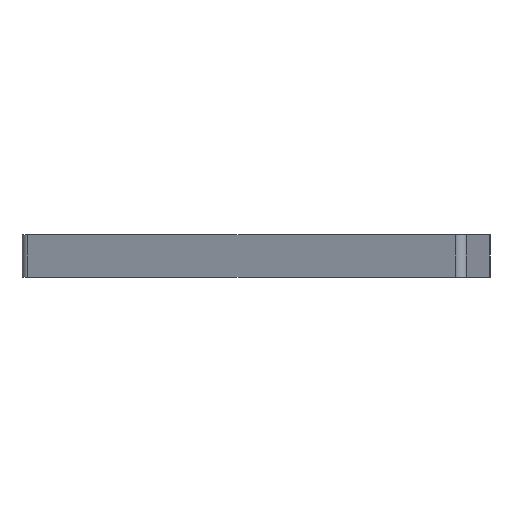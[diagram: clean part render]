
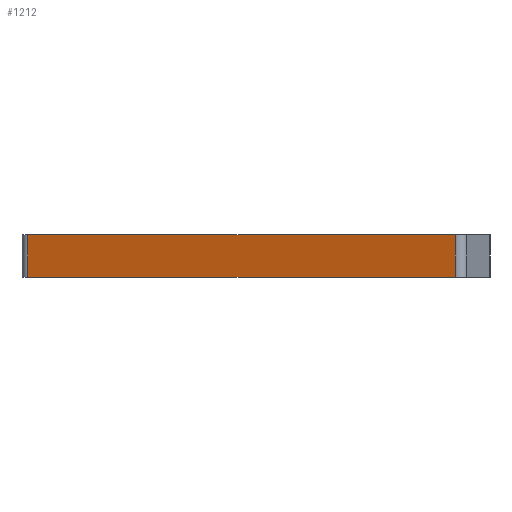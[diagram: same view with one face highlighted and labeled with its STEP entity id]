
A CAD part, left-side view. The second image highlights one B-rep face of the part: STEP entity #1212.
In plain terms, the highlighted planar face has unit normal (-0.94, 0.342, 0).
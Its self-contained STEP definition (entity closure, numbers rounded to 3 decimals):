
#38=PLANE('',#1318);
#88=FACE_OUTER_BOUND('',#159,.T.);
#159=EDGE_LOOP('',(#915,#916,#917,#918));
#233=LINE('',#1777,#362);
#275=LINE('',#1898,#404);
#276=LINE('',#1901,#405);
#277=LINE('',#1902,#406);
#362=VECTOR('',#1420,10.);
#404=VECTOR('',#1510,10.);
#405=VECTOR('',#1513,10.);
#406=VECTOR('',#1514,10.);
#540=VERTEX_POINT('',#1774);
#541=VERTEX_POINT('',#1776);
#596=VERTEX_POINT('',#1896);
#597=VERTEX_POINT('',#1900);
#664=EDGE_CURVE('',#541,#540,#233,.T.);
#725=EDGE_CURVE('',#541,#596,#275,.T.);
#726=EDGE_CURVE('',#597,#540,#276,.T.);
#727=EDGE_CURVE('',#596,#597,#277,.T.);
#915=ORIENTED_EDGE('',*,*,#725,.F.);
#916=ORIENTED_EDGE('',*,*,#664,.T.);
#917=ORIENTED_EDGE('',*,*,#726,.F.);
#918=ORIENTED_EDGE('',*,*,#727,.F.);
#1212=ADVANCED_FACE('',(#88),#38,.T.);
#1318=AXIS2_PLACEMENT_3D('',#1899,#1511,#1512);
#1420=DIRECTION('',(0.342,0.94,0.));
#1510=DIRECTION('',(0.,0.,-1.));
#1511=DIRECTION('center_axis',(-0.94,0.342,0.));
#1512=DIRECTION('ref_axis',(0.342,0.94,0.));
#1513=DIRECTION('',(0.,0.,1.));
#1514=DIRECTION('',(0.342,0.94,0.));
#1774=CARTESIAN_POINT('',(-1.879,53.313,0.));
#1776=CARTESIAN_POINT('',(-38.631,-47.662,0.));
#1777=CARTESIAN_POINT('',(-39.315,-49.541,0.));
#1896=CARTESIAN_POINT('',(-38.631,-47.662,-10.));
#1898=CARTESIAN_POINT('',(-38.631,-47.662,0.));
#1899=CARTESIAN_POINT('Origin',(-39.315,-49.541,0.));
#1900=CARTESIAN_POINT('',(-1.879,53.313,-10.));
#1901=CARTESIAN_POINT('',(-1.879,53.313,0.));
#1902=CARTESIAN_POINT('',(-39.315,-49.541,-10.));
